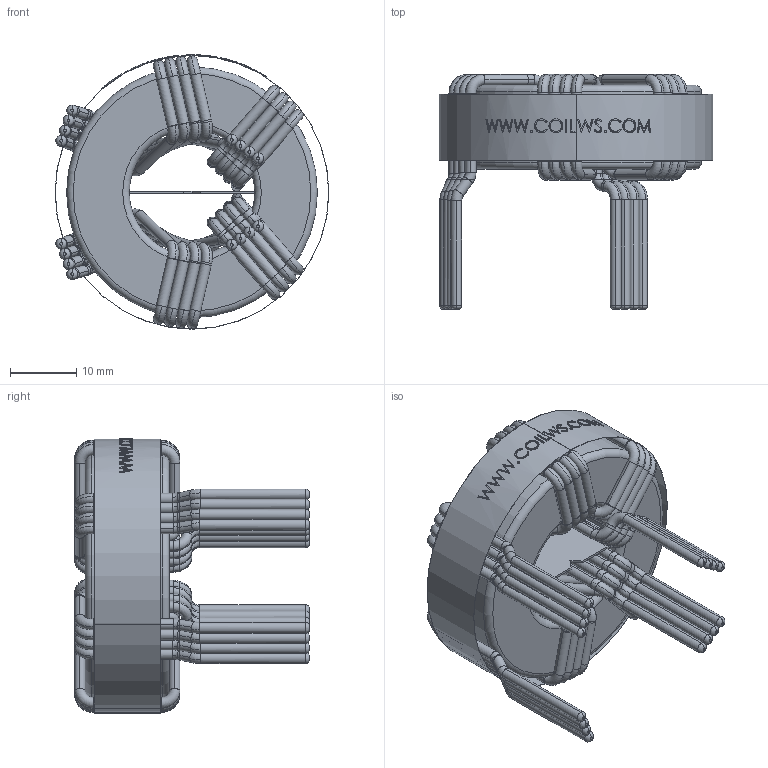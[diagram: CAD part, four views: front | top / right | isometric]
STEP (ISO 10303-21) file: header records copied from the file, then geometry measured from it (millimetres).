
FILE_DESCRIPTION (( 'STEP AP203' ), '1' );
FILE_NAME ('CM-161U-60A-SW.STEP', '2021-02-11T14:11:08', ( 'Windows User' ), ( '' ), 'SwSTEP 2.0', 'SolidWorks 2015', '' );
FILE_SCHEMA (( 'CONFIG_CONTROL_DESIGN' ));
Length unit declared in the file: inch
Products named in the file (4): CM-161U-60A-COIL-SW; CM-161U-60A-CORE-SW; CM-161U-60A-SW; CM-161U-60A-SPACER-SW
Assembly tree (3 placements, depth 2):
  CM-161U-60A-SW
    CM-161U-60A-CORE-SW
    CM-161U-60A-COIL-SW
    CM-161U-60A-SPACER-SW
Bounding box: 41.48 x 35.58 x 41.58 mm (x, y, z)
Volume: 13935.1 mm3; surface area: 14959.9 mm2
Topology: 99 solids, 99 shells, 1067 faces, 2506 edges, 1652 vertices
Faces by surface type: cylinder 420, torus 306, plane 238, bspline 103
Entity records: 38943 total; most frequent: CARTESIAN_POINT 13645, DIRECTION 5680, ORIENTED_EDGE 5012, AXIS2_PLACEMENT_3D 2624, EDGE_CURVE 2506, CIRCLE 1654, VERTEX_POINT 1652, EDGE_LOOP 1086
